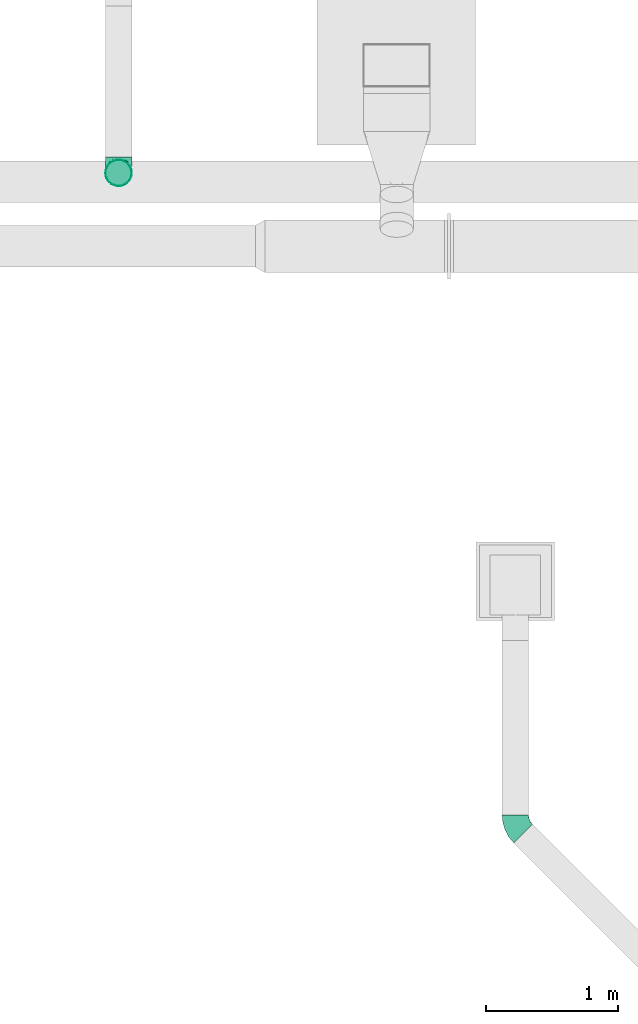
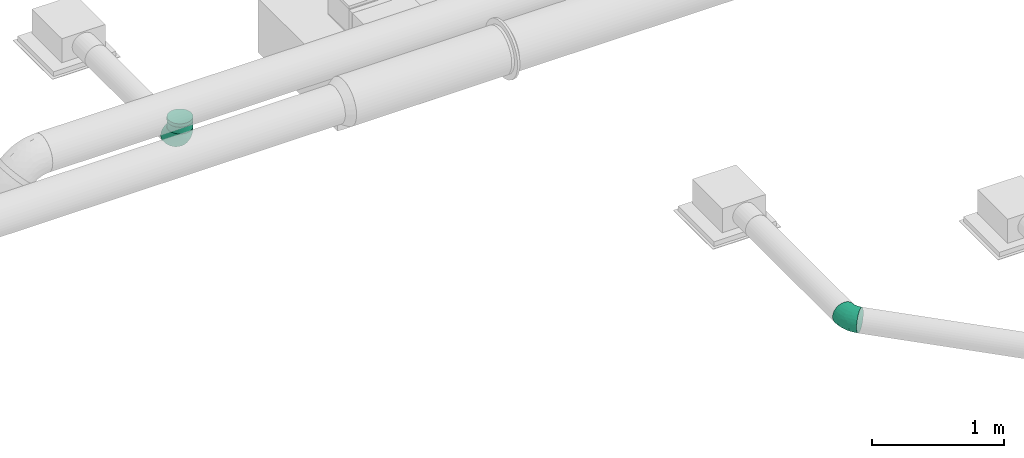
# One storey, part 15 of 36: 3 flow fittings, 1 flow segment.
"""IFC2X3 building model written with IfcOpenShell, lengths in millimetres."""

from ifc_helpers import new_model, entity, si_unit, converted_unit, derived_unit, direction, frame, origin_with_axes, origin_2d_with_axis, place, context, subcontext, project, spatial, hollow_circle, extrude, open_shell, surface_model, source, transform, mapped, type_object, element, save


model = new_model("IFC2X3")

# Units and contexts
model_context = context("Model", 3, precision=0.01, world=frame((0.0, 4.29681676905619e-09, 0.0)), true_north=direction((4.01073788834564e-13, 1.0)))
plan_context = context("Plan", 3, precision=0.01, world=frame((0.0, 4.29681676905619e-09, 0.0)), true_north=direction((4.01073788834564e-13, 1.0)))
body_context = subcontext(model_context, "Body", "Model", "MODEL_VIEW")
ifc_project = project(units=[converted_unit("PLANEANGLEUNIT", "DEGREE", entity("IfcPositiveLengthMeasure", 0.0174532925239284), si_unit("PLANEANGLEUNIT", "RADIAN"), dimensions=[0, 0, 0, 0, 0, 0, 0]), si_unit("AREAUNIT", "SQUARE_METRE"), si_unit("LENGTHUNIT", "METRE", prefix="MILLI"), si_unit("MASSUNIT", "GRAM", prefix="KILO"), si_unit("POWERUNIT", "WATT"), si_unit("PRESSUREUNIT", "PASCAL"), si_unit("FORCEUNIT", "NEWTON", prefix="KILO"), si_unit("ELECTRICCURRENTUNIT", "AMPERE"), si_unit("THERMODYNAMICTEMPERATUREUNIT", "DEGREE_CELSIUS"), si_unit("TIMEUNIT", "SECOND"), si_unit("VOLUMEUNIT", "CUBIC_METRE"), derived_unit("LINEARVELOCITYUNIT", [(si_unit("LENGTHUNIT", "METRE"), 1), (si_unit("TIMEUNIT", "SECOND"), -1)]), derived_unit("VOLUMETRICFLOWRATEUNIT", [(si_unit("VOLUMEUNIT", "CUBIC_METRE"), 1), (si_unit("TIMEUNIT", "SECOND"), -1)]), derived_unit("THERMALTRANSMITTANCEUNIT", [(si_unit("POWERUNIT", "WATT"), 1), (si_unit("THERMODYNAMICTEMPERATUREUNIT", "KELVIN"), -1), (si_unit("AREAUNIT", "SQUARE_METRE"), -1)])], contexts=[model_context, plan_context])

# Site, building, storey
site_placement = place(None, frame((0.0, -4.29681676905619e-09, 0.0), z_axis=(0.0, 0.0, 1.0), x_axis=(1.0, 0.0, 0.0)))
site = spatial("IfcSite", under=ifc_project, at=site_placement, CompositionType="ELEMENT")
building_placement = place(site_placement, frame((0.0, 4.29681676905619e-09, 0.0), z_axis=(0.0, 0.0, 1.0), x_axis=(1.0, 0.0, 0.0)))
building = spatial("IfcBuilding", under=site, at=building_placement, Name="mc-building", CompositionType="ELEMENT")
storey_placement = place(building_placement, frame((0.0, 0.0, 204000.0), z_axis=(0.0, 0.0, 1.0), x_axis=(1.0, 0.0, 0.0)))
storey = spatial("IfcBuildingStorey", under=building, at=storey_placement, Name="Nivå D", CompositionType="ELEMENT", Elevation=204000.0)

# Flow fittings
duct_fitting_type_1 = type_object("IfcDuctFittingType", Name="magicirc_elbow_full_radius_001", PredefinedType="BEND")
shared_shape_1 = source(origin_with_axes(), body_context, "Body", "SurfaceModel", [
    surface_model("IfcShellBasedSurfaceModel", [(-82.84271, 25.8819, -96.59259), (-82.84271, 0.0, -100.0), (-82.84271, 96.59259, -25.8819), (-82.84271, 50.0, -86.60254), (-82.84271, 86.60254, -50.0), (-82.84271, 70.71068, -70.71068), (-82.84271, -70.71068, -70.71068), (-82.84271, -50.0, -86.60254), (-82.84271, -25.8819, -96.59259), (-82.84271, -86.60254, -50.0), (-82.84271, -96.59259, -25.8819), (-82.84271, -50.0, 86.60254), (-82.84271, -100.0, 0.0), (-82.84271, -96.59259, 25.8819), (-82.84271, 96.59259, 25.8819), (-82.84271, 100.0, 0.0), (-82.84271, 25.8819, 96.59259), (-82.84271, 86.60254, 50.0), (-82.84271, 70.71068, 70.71068), (-82.84271, 50.0, 86.60254), (-82.84271, -86.60254, 50.0), (-82.84271, -70.71068, 70.71068), (-82.84271, -25.8819, 96.59259), (-82.84271, 0.0, 100.0), (58.57864, 58.57864, -100.0), (40.27737, 76.87991, -96.59259), (23.22331, 93.93398, -86.60254), (-2.6586, 119.81589, -50.0), (108.57865, 8.57864, -70.71068), (8.57864, 108.57865, -70.71068), (126.87991, -9.72263, 25.8819), (126.87991, -9.72263, -25.8819), (76.87991, 40.27737, -96.59259), (93.93398, 23.22331, -86.60254), (119.81589, -2.6586, -50.0), (129.28932, -12.13203, 0.0), (-9.72263, 126.87991, -25.8819), (-12.13203, 129.28932, 0.0), (-9.72263, 126.87991, 25.8819), (-2.6586, 119.81589, 50.0), (23.22331, 93.93398, 86.60254), (40.27737, 76.87991, 96.59259), (8.57864, 108.57865, 70.71068), (93.93398, 23.22331, 86.60254), (108.57865, 8.57864, 70.71068), (119.81589, -2.6586, 50.0), (76.87991, 40.27737, 96.59259), (58.57864, 58.57864, 100.0), (-57.29099, -79.42021, 59.21052), (-24.31562, -94.23558, 0.0), (-43.9725, -96.06555, 16.63742), (-58.00304, -97.5535, 0.0), (-22.62975, -75.75, 56.8801), (-39.16383, -90.45398, 34.87961), (-29.30132, -36.36549, 90.58787), (-39.70312, -60.08226, 77.13943), (19.49388, -47.06239, 73.85634), (10.84026, 65.00947, 93.41562), (1.46492, -3.53662, 97.91653), (-43.12593, -12.7573, 98.6406), (-38.26827, 14.32746, 99.58947), (-57.69239, 93.63486, 42.10905), (-35.4631, 85.6155, 64.76816), (-29.65962, 102.0198, 46.52765), (-12.25866, 100.52723, 62.54187), (-62.4153, 79.75166, 62.54187), (-46.49193, 62.66416, 81.50801), (-6.40302, -88.25261, 18.80636), (-18.73869, 45.23919, 94.57549), (-53.63386, 38.30341, 93.41562), (91.65364, -36.26761, 34.87961), (-43.25494, 104.42667, 26.03225), (-56.96081, 103.40741, 0.0), (39.51541, 21.47386, 98.6406), (-32.84271, 113.39746, 0.0), (19.7138, -75.88259, 33.1995), (26.23125, -61.80978, 54.83928), (46.43345, -4.99513, 90.58787), (98.51157, -37.21493, 16.69099), (71.15919, -55.23259, 19.42915), (-10.03396, 78.1744, 81.40791), (96.66942, -15.64772, 59.21052), (16.9287, 37.1908, 99.58947), (56.23324, -57.15976, 38.34032), (31.96232, -77.16386, 0.0), (70.55892, -14.41023, 77.13943), (83.82836, -49.44088, 0.0), (106.55884, -30.78646, 0.0), (69.56499, -37.56169, 56.8801), (9.88078, -23.85433, 90.61382), (-11.68618, 28.21294, 99.00678), (57.89534, -63.30237, 0.0), (3.82335, -85.69972, 0.0), (82.71793, -27.62774, -57.98988), (55.71052, 2.24508, -90.99936), (32.01348, 15.60322, -98.50234), (-46.22996, 82.51933, -63.86908), (-42.69185, 39.65342, -93.78543), (-8.72296, 21.05909, -99.80036), (-48.44601, 13.11192, -99.50146), (-43.25495, 104.42667, -26.03225), (-58.37356, 61.05095, -80.80392), (-27.86885, 67.28134, -82.61409), (2.14849, 58.2269, -93.78543), (-36.62535, 98.23487, -47.06584), (-26.19472, -88.59033, -33.84745), (109.99508, -27.9664, 0.0), (-27.06178, -58.48887, -76.46967), (7.51001, -27.94606, -89.20181), (24.24205, -38.81302, -78.67846), (-39.42854, -78.07759, -58.02175), (-40.9808, -37.80578, -90.99936), (-33.67009, -11.60381, -98.50234), (16.54926, -66.14947, -54.09942), (27.48789, -74.57861, -28.28654), (39.90412, -47.07461, -65.1263), (54.0194, -52.73285, -48.57265), (-17.13985, 96.75999, -63.04113), (-7.90978, 86.16249, -77.07496), (24.98497, 43.52803, -99.50146), (81.16529, -44.12035, -33.84745), (57.56574, -24.35182, -76.27755), (-0.71706, 1.73113, -98.92776), (54.51768, -60.62886, -32.38632)], [open_shell([[[0, 1, 2]], [[3, 0, 2]], [[2, 4, 5]], [[3, 2, 5]], [[6, 2, 1]], [[7, 6, 8]], [[6, 1, 8]], [[9, 10, 6]], [[11, 6, 10]], [[10, 12, 13]], [[2, 6, 11]], [[14, 15, 16]], [[17, 14, 18]], [[14, 16, 19]], [[18, 14, 19]], [[11, 16, 15]], [[20, 21, 13]], [[11, 13, 21]], [[10, 13, 11]], [[11, 22, 16]], [[22, 23, 16]], [[15, 2, 11]], [[24, 25, 26]], [[24, 26, 27]], [[24, 27, 28]], [[27, 26, 29]], [[30, 31, 27]], [[32, 28, 33]], [[32, 24, 28]], [[28, 31, 34]], [[27, 31, 28]], [[31, 30, 35]], [[30, 27, 36]], [[37, 38, 39]], [[30, 37, 39]], [[40, 41, 39]], [[40, 39, 42]], [[43, 39, 41]], [[30, 44, 45]], [[44, 30, 43]], [[41, 46, 43]], [[43, 30, 39]], [[47, 46, 41]], [[37, 30, 36]], [[21, 20, 48]], [[49, 50, 51]], [[52, 48, 53]], [[22, 11, 54]], [[11, 55, 54]], [[54, 55, 56]], [[41, 40, 57]], [[58, 59, 54]], [[59, 23, 22]], [[16, 23, 60]], [[17, 61, 14]], [[62, 63, 61]], [[42, 39, 64]], [[62, 65, 66]], [[53, 50, 67]], [[65, 17, 18]], [[68, 69, 60]], [[53, 20, 13]], [[45, 70, 30]], [[14, 71, 72]], [[46, 47, 73]], [[72, 15, 14]], [[74, 71, 38]], [[11, 21, 55]], [[16, 69, 19]], [[52, 75, 76]], [[53, 75, 52]], [[18, 19, 66]], [[77, 46, 73]], [[78, 70, 79]], [[68, 57, 80]], [[77, 43, 46]], [[45, 44, 81]], [[41, 57, 82]], [[75, 83, 76]], [[45, 81, 70]], [[67, 84, 75]], [[77, 85, 43]], [[86, 78, 79]], [[30, 78, 87]], [[83, 70, 88]], [[13, 51, 50]], [[85, 56, 88]], [[72, 71, 74]], [[44, 43, 85]], [[37, 74, 38]], [[54, 89, 58]], [[38, 71, 63]], [[73, 82, 58]], [[42, 80, 40]], [[90, 58, 82]], [[63, 62, 64]], [[60, 90, 68]], [[62, 66, 80]], [[41, 82, 47]], [[59, 60, 23]], [[69, 66, 19]], [[70, 83, 79]], [[48, 55, 21]], [[89, 56, 77]], [[56, 55, 52]], [[56, 85, 77]], [[81, 85, 88]], [[80, 42, 64]], [[68, 80, 66]], [[54, 59, 22]], [[60, 59, 58]], [[82, 73, 47]], [[77, 73, 58]], [[60, 69, 16]], [[66, 69, 68]], [[80, 57, 40]], [[82, 57, 68]], [[76, 88, 56]], [[13, 12, 51]], [[88, 76, 83]], [[52, 76, 56]], [[75, 79, 83]], [[79, 84, 91]], [[87, 35, 30]], [[30, 70, 78]], [[78, 86, 87]], [[84, 79, 75]], [[91, 86, 79]], [[67, 50, 49]], [[13, 50, 53]], [[67, 49, 92]], [[53, 67, 75]], [[38, 63, 39]], [[61, 63, 71]], [[14, 61, 71]], [[61, 17, 65]], [[66, 65, 18]], [[61, 65, 62]], [[63, 64, 39]], [[80, 64, 62]], [[53, 48, 20]], [[55, 48, 52]], [[85, 81, 44]], [[70, 81, 88]], [[56, 89, 54]], [[77, 58, 89]], [[58, 90, 60]], [[82, 68, 90]], [[84, 67, 92]], [[34, 93, 28]], [[32, 94, 95]], [[96, 5, 4]], [[3, 97, 0]], [[15, 72, 2]], [[98, 99, 97]], [[2, 72, 100]], [[24, 32, 95]], [[101, 96, 102]], [[26, 25, 103]], [[2, 100, 104]], [[99, 1, 0]], [[9, 105, 10]], [[32, 33, 94]], [[105, 51, 10]], [[102, 103, 97]], [[31, 35, 106]], [[4, 2, 104]], [[6, 7, 107]], [[107, 108, 109]], [[6, 110, 9]], [[8, 111, 7]], [[8, 1, 112]], [[105, 113, 114]], [[115, 93, 116]], [[29, 117, 27]], [[100, 72, 74]], [[113, 110, 107]], [[74, 37, 36]], [[111, 108, 107]], [[117, 104, 27]], [[104, 36, 27]], [[102, 96, 118]], [[117, 118, 96]], [[3, 5, 101]], [[112, 111, 8]], [[119, 25, 24]], [[101, 97, 3]], [[1, 99, 112]], [[102, 118, 103]], [[93, 34, 120]], [[119, 95, 98]], [[95, 94, 108]], [[110, 6, 107]], [[115, 109, 121]], [[113, 116, 114]], [[92, 105, 114]], [[121, 33, 28]], [[120, 31, 106]], [[110, 113, 105]], [[120, 106, 86]], [[119, 103, 25]], [[95, 122, 98]], [[31, 120, 34]], [[91, 114, 123]], [[122, 108, 112]], [[116, 93, 120]], [[100, 74, 36]], [[121, 28, 93]], [[98, 97, 103]], [[105, 9, 110]], [[33, 121, 94]], [[94, 121, 109]], [[108, 111, 112]], [[107, 7, 111]], [[97, 99, 0]], [[112, 99, 98]], [[95, 119, 24]], [[103, 119, 98]], [[117, 29, 118]], [[104, 117, 96]], [[4, 104, 96]], [[104, 100, 36]], [[29, 26, 118]], [[103, 118, 26]], [[84, 114, 91]], [[115, 116, 113]], [[96, 101, 5]], [[49, 105, 92]], [[109, 113, 107]], [[93, 115, 121]], [[109, 115, 113]], [[94, 109, 108]], [[120, 123, 116]], [[86, 91, 120]], [[97, 101, 102]], [[51, 105, 49]], [[51, 12, 10]], [[108, 122, 95]], [[112, 98, 122]], [[114, 84, 92]], [[91, 123, 120]], [[114, 116, 123]]])]),
])
flow_fitting_1_placement = place(storey_placement, frame((523896.54715, 409350.35076, 2868.32430000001), z_axis=(0.0, 0.0, 1.0), x_axis=(0.0, -1.0, 0.0)))
element("IfcFlowFitting", 1, at=flow_fitting_1_placement, inside=storey, type_object=duct_fitting_type_1, Name="magicirc_elbow_full_radius_001", context=body_context, shape_type="MappedRepresentation", body=[
    mapped(shared_shape_1, transform((0.0, 0.0, 0.0), scale=1.0)),
])
duct_fitting_type_2 = type_object("IfcDuctFittingType", Name="magicirc_elbow_short_001", PredefinedType="BEND")
shared_shape_2 = source(origin_with_axes(), body_context, "Body", "SurfaceModel", [
    surface_model("IfcShellBasedSurfaceModel", [(-120.0, 50.0, -86.60254), (-120.0, 25.8819, -96.59259), (-120.0, 70.71068, -70.71068), (-120.0, 96.59259, -25.8819), (-120.0, 86.60254, -50.0), (-120.0, -50.0, -86.60254), (-120.0, -70.71068, -70.71068), (-120.0, -25.8819, -96.59259), (-120.0, 0.0, -100.0), (-120.0, -96.59259, -25.8819), (-120.0, -100.0, 0.0), (-120.0, -86.60254, -50.0), (-120.0, 96.59259, 25.8819), (-120.0, -70.71068, 70.71068), (-120.0, -50.0, 86.60254), (-120.0, -86.60254, 50.0), (-120.0, -96.59259, 25.8819), (-120.0, -25.8819, 96.59259), (-120.0, 0.0, 100.0), (-120.0, 25.8819, 96.59259), (-25.8819, 120.0, -96.59259), (70.71068, 120.0, -70.71068), (0.0, 120.0, -100.0), (-70.71068, 120.0, -70.71068), (-50.0, 120.0, -86.60254), (-86.60254, 120.0, -50.0), (-96.59259, 120.0, -25.8819), (25.8819, 120.0, -96.59259), (50.0, 120.0, -86.60254), (86.60254, 120.0, -50.0), (100.0, 120.0, 0.0), (96.59259, 120.0, -25.8819), (-96.59259, 120.0, 25.8819), (86.60254, 120.0, 50.0), (50.0, 120.0, 86.60254), (70.71068, 120.0, 70.71068), (96.59259, 120.0, 25.8819), (-25.8819, 120.0, 96.59259), (0.0, 120.0, 100.0), (25.8819, 120.0, 96.59259), (-100.0, 120.0, 0.0), (-50.0, 120.0, 86.60254), (-70.71068, 120.0, 70.71068), (-57.47657, 95.22229, 84.95805), (-85.33946, -92.96309, 28.79275), (-95.20929, -97.20676, 0.0), (-84.48473, -65.01559, 72.95431), (-52.96075, -70.60035, 57.16979), (-58.29219, -58.77958, 72.2572), (-71.0454, -94.48414, 0.0), (-33.46621, 86.30074, 96.24781), (-7.45333, 88.76819, 99.94878), (-26.53059, -25.83103, 84.66541), (5.23459, -24.1841, 70.44192), (-1.23107, 1.23105, 87.74618), (-103.71213, 103.71213, 24.44784), (-95.28171, 98.70414, 48.64074), (-78.83961, -43.63421, 87.3226), (48.45058, -8.12007, 40.03254), (39.62941, -27.51041, 22.8702), (55.13075, -9.11298, 21.86769), (27.15427, -27.15428, 47.29752), (-0.9865, -46.35038, 53.41318), (-49.25997, -85.42957, 23.21428), (-69.41482, -80.94006, 48.93369), (34.63169, 2.36241, 66.9375), (-59.03727, -17.74459, 95.19283), (-92.36993, -18.34983, 97.75252), (-98.24586, -81.70799, 55.95793), (-87.21661, 7.38787, 99.96319), (-79.82304, 33.86298, 96.83649), (-103.25245, 34.36931, 94.48617), (-49.8635, 16.95363, 99.89181), (-120.0, 50.0, 86.60254), (-93.99414, 57.52782, 85.21417), (-13.524, 31.6217, 98.29715), (-30.34675, -2.85909, 94.71053), (-120.0, 70.71068, 70.71068), (-102.74619, 77.59979, 67.01377), (-120.0, 86.60254, 50.0), (-105.2102, 88.7141, 52.03645), (-120.0, 100.0, 0.0), (94.48414, 71.0454, 0.0), (92.96309, 85.33946, 28.79275), (85.42957, 49.25997, 23.21428), (18.34983, 92.36993, 97.75252), (-37.44754, -44.66633, 76.66985), (-66.8783, 56.54931, 92.80405), (65.01559, 84.48473, 72.95431), (43.6342, 78.83961, 87.3226), (37.67702, 38.38344, 81.78155), (58.58205, 33.30331, 61.93165), (58.77958, 58.29217, 72.2572), (14.52663, -47.57763, 31.54394), (81.70799, 98.24586, 55.95793), (97.20676, 95.20929, 0.0), (75.2275, 38.8764, 40.54554), (80.94006, 69.41482, 48.93369), (-19.32309, 64.21329, 99.87988), (-105.85786, 105.85786, 0.0), (17.74458, 59.03726, 95.19283), (70.60036, 52.96074, 57.16978), (-82.76473, 82.76473, 73.92657), (-77.59979, 102.74619, 67.01377), (-38.87641, -75.2275, 40.54555), (-40.86148, 50.04827, 98.96107), (-86.60254, 120.0, 50.0), (-25.82378, -76.70765, 19.45345), (-49.50418, 71.23352, 93.94065), (-57.3172, 35.12243, 98.9453), (65.10804, 3.68891, 0.0), (65.80674, 11.30259, 30.40508), (15.01777, 28.10412, 90.12797), (-0.1518, 65.0789, 99.29745), (-47.79548, -86.34864, 0.0), (-67.45496, 75.91085, 85.7741), (-3.68891, -65.10804, 0.0), (17.16776, -52.00293, 0.0), (-11.30259, -65.80674, 30.40508), (-24.54558, -78.21315, 0.0), (76.76895, 27.91333, 23.28633), (86.34864, 47.79548, 0.0), (58.40844, 13.74403, 48.13414), (52.00293, -17.16776, 0.0), (20.33542, 8.19535, 80.42602), (-51.11653, -33.50476, 87.58865), (-33.30333, -58.58206, 61.93166), (-17.26255, -60.80757, 47.57586), (78.21315, 24.54558, 0.0), (34.58534, -34.58534, 0.0), (-86.30074, 33.4662, -96.24781), (-34.36932, 103.25245, -94.48617), (-11.30259, -65.80673, -30.40508), (9.11298, -55.13075, -21.86769), (-98.24586, -81.70799, -55.95793), (-88.7682, 7.45333, -99.94878), (43.63421, 78.83961, -87.3226), (-98.70414, 95.28171, -48.64074), (-82.76473, 82.76473, -73.92657), (-102.74619, 77.59979, -67.01377), (85.42957, 49.25997, -23.21428), (75.22749, 38.8764, -40.54555), (80.94006, 69.41482, -48.93369), (27.15427, -27.15428, -47.29753), (47.57763, -14.52663, -31.54396), (27.51041, -39.62941, -22.8702), (-71.23352, 49.50417, -93.94066), (-56.54932, 66.8783, -92.80405), (-50.04827, 40.86148, -98.96107), (-33.86298, 79.82303, -96.83649), (-57.52782, 93.99414, -85.21417), (-16.95364, 49.8635, -99.89182), (-31.6217, 13.52399, -98.29715), (-85.33946, -92.96309, -28.79275), (24.18408, -5.23461, -70.44192), (46.35038, 0.9865, -53.41318), (65.01559, 84.48472, -72.95431), (-84.48473, -65.01559, -72.95431), (-78.83961, -43.63421, -87.3226), (-103.71213, 103.71213, -24.44784), (-95.22229, 57.47657, -84.95805), (-49.25997, -85.42957, -23.21428), (-92.36993, -18.34984, -97.75252), (-38.87641, -75.2275, -40.54555), (-69.41482, -80.94006, -48.93369), (-88.7141, 105.2102, -52.03645), (-7.38786, 87.21659, -99.96319), (17.74459, 59.03726, -95.19283), (-33.30333, -58.58206, -61.93166), (-52.96075, -70.60035, -57.16979), (-77.59979, 102.74619, -67.01377), (-38.38346, -37.67703, -81.78155), (-2.36242, -34.6317, -66.93751), (18.34983, 92.36993, -97.75252), (81.70799, 98.24586, -55.95793), (8.12006, -48.45058, -40.03254), (-1.23106, 1.23105, -87.74618), (25.83103, 26.53058, -84.6654), (92.96309, 85.33946, -28.79275), (76.70765, 25.82378, -19.45345), (-59.03727, -17.74459, -95.19283), (2.8591, 30.34673, -94.71053), (-64.21329, 19.32309, -99.87988), (58.77958, 58.29219, -72.2572), (70.60035, 52.96075, -57.16979), (-58.29219, -58.77958, -72.2572), (-35.12244, 57.3172, -98.9453), (44.66633, 37.44754, -76.66985), (-28.10413, -15.01778, -90.12797), (-65.07891, 0.1518, -99.29745), (-75.91086, 67.45496, -85.7741), (-27.91333, -76.76895, -23.28633), (-13.74403, -58.40844, -48.13415), (65.80673, 11.30258, -30.40508), (-8.19536, -20.33543, -80.42602), (33.50476, 51.11653, -87.58865), (58.58205, 33.30333, -61.93166), (60.80757, 17.26255, -47.57586)], [open_shell([[[0, 1, 2]], [[3, 4, 2]], [[5, 6, 7]], [[6, 8, 7]], [[9, 10, 11]], [[11, 10, 3]], [[10, 12, 3]], [[13, 14, 15]], [[16, 15, 14]], [[17, 18, 19]], [[20, 21, 22]], [[23, 20, 24]], [[23, 25, 26]], [[27, 21, 28]], [[27, 22, 21]], [[29, 30, 31]], [[21, 20, 29]], [[26, 30, 29]], [[26, 32, 30]], [[33, 34, 35]], [[34, 33, 36]], [[37, 38, 39]], [[32, 26, 40]], [[41, 42, 43]], [[44, 16, 45]], [[44, 15, 16]], [[46, 47, 48]], [[45, 49, 44]], [[37, 50, 51]], [[52, 53, 54]], [[55, 56, 32]], [[14, 46, 57]], [[58, 59, 60]], [[61, 53, 62]], [[44, 63, 64]], [[14, 13, 46]], [[53, 61, 65]], [[57, 66, 67]], [[18, 17, 67]], [[68, 13, 15]], [[69, 70, 71]], [[70, 69, 72]], [[73, 71, 74]], [[75, 72, 76]], [[77, 78, 79]], [[80, 12, 79]], [[78, 80, 79]], [[81, 12, 55]], [[82, 83, 84]], [[73, 74, 77]], [[41, 43, 50]], [[39, 38, 85]], [[48, 86, 57]], [[17, 14, 57]], [[70, 87, 74]], [[88, 35, 34]], [[85, 89, 39]], [[55, 12, 80]], [[34, 39, 89]], [[90, 91, 92]], [[83, 36, 33]], [[61, 93, 59]], [[89, 88, 34]], [[35, 94, 33]], [[83, 95, 36]], [[96, 84, 97]], [[19, 71, 73]], [[98, 51, 50]], [[99, 81, 55]], [[90, 89, 100]], [[99, 55, 40]], [[91, 96, 101]], [[102, 103, 56]], [[63, 104, 64]], [[105, 72, 75]], [[56, 106, 32]], [[42, 106, 103]], [[19, 18, 69]], [[107, 104, 63]], [[108, 87, 105]], [[50, 37, 41]], [[51, 38, 37]], [[91, 90, 65]], [[109, 72, 105]], [[110, 111, 60]], [[69, 66, 72]], [[67, 69, 18]], [[76, 66, 52]], [[70, 109, 87]], [[78, 74, 102]], [[112, 75, 54]], [[113, 51, 98]], [[63, 49, 114]], [[68, 44, 64]], [[94, 83, 33]], [[84, 83, 97]], [[103, 43, 42]], [[115, 87, 108]], [[108, 98, 50]], [[51, 113, 85]], [[101, 92, 91]], [[94, 88, 97]], [[68, 46, 13]], [[47, 64, 104]], [[116, 117, 118]], [[63, 119, 107]], [[107, 116, 118]], [[62, 93, 61]], [[96, 111, 120]], [[84, 121, 82]], [[65, 58, 122]], [[60, 123, 110]], [[100, 112, 90]], [[61, 59, 58]], [[124, 90, 112]], [[65, 124, 53]], [[54, 76, 52]], [[53, 86, 62]], [[52, 125, 86]], [[53, 52, 86]], [[98, 108, 105]], [[74, 87, 115]], [[51, 85, 38]], [[89, 85, 100]], [[57, 67, 17]], [[69, 67, 66]], [[56, 103, 106]], [[103, 102, 115]], [[74, 78, 77]], [[80, 102, 56]], [[126, 127, 62]], [[62, 127, 93]], [[84, 128, 121]], [[93, 129, 59]], [[110, 120, 111]], [[58, 60, 111]], [[122, 58, 111]], [[65, 61, 58]], [[75, 76, 54]], [[72, 66, 76]], [[105, 75, 98]], [[113, 75, 100]], [[50, 43, 108]], [[43, 103, 115]], [[43, 115, 108]], [[74, 115, 102]], [[127, 104, 118]], [[104, 127, 47]], [[48, 47, 126]], [[46, 64, 47]], [[86, 48, 126]], [[57, 46, 48]], [[86, 126, 62]], [[52, 66, 125]], [[66, 57, 125]], [[57, 86, 125]], [[101, 96, 97]], [[122, 96, 91]], [[97, 88, 101]], [[92, 101, 88]], [[88, 89, 92]], [[90, 92, 89]], [[96, 122, 111]], [[65, 122, 91]], [[75, 113, 98]], [[85, 113, 100]], [[59, 123, 60]], [[84, 96, 120]], [[75, 112, 100]], [[120, 110, 128]], [[124, 112, 54]], [[53, 124, 54]], [[90, 124, 65]], [[102, 80, 78]], [[80, 56, 55]], [[16, 10, 45]], [[95, 83, 82]], [[95, 30, 36]], [[40, 55, 32]], [[69, 71, 19]], [[74, 71, 70]], [[44, 68, 15]], [[46, 68, 64]], [[88, 94, 35]], [[83, 94, 97]], [[87, 109, 105]], [[70, 72, 109]], [[49, 63, 44]], [[114, 119, 63]], [[104, 107, 118]], [[107, 119, 116]], [[117, 93, 118]], [[127, 126, 47]], [[93, 127, 118]], [[129, 93, 117]], [[129, 123, 59]], [[128, 84, 120]], [[0, 130, 1]], [[20, 131, 24]], [[132, 133, 116]], [[6, 134, 11]], [[1, 135, 8]], [[27, 28, 136]], [[137, 138, 139]], [[140, 141, 142]], [[4, 139, 2]], [[143, 144, 145]], [[4, 3, 137]], [[146, 147, 148]], [[149, 147, 150]], [[148, 151, 152]], [[11, 153, 9]], [[143, 154, 155]], [[153, 45, 9]], [[28, 21, 156]], [[157, 5, 158]], [[159, 137, 3]], [[6, 5, 157]], [[5, 7, 158]], [[0, 2, 160]], [[31, 30, 95]], [[49, 153, 161]], [[7, 162, 158]], [[163, 161, 164]], [[165, 26, 25]], [[81, 99, 159]], [[166, 167, 151]], [[40, 26, 159]], [[168, 163, 169]], [[25, 170, 165]], [[20, 22, 166]], [[168, 171, 172]], [[23, 170, 25]], [[149, 131, 166]], [[160, 130, 0]], [[149, 166, 151]], [[136, 167, 173]], [[174, 21, 29]], [[23, 24, 150]], [[24, 131, 150]], [[27, 173, 22]], [[136, 28, 156]], [[154, 143, 172]], [[1, 130, 135]], [[133, 175, 145]], [[154, 176, 177]], [[7, 8, 162]], [[140, 142, 178]], [[179, 141, 140]], [[95, 82, 178]], [[31, 95, 178]], [[171, 158, 180]], [[152, 151, 181]], [[182, 135, 130]], [[183, 156, 184]], [[171, 168, 185]], [[178, 29, 31]], [[173, 166, 22]], [[159, 3, 81]], [[149, 151, 186]], [[183, 187, 136]], [[181, 167, 177]], [[149, 186, 147]], [[170, 150, 138]], [[188, 152, 176]], [[189, 135, 182]], [[134, 153, 11]], [[161, 153, 164]], [[140, 82, 121]], [[174, 178, 142]], [[139, 160, 2]], [[190, 147, 146]], [[146, 182, 130]], [[135, 189, 162]], [[169, 185, 168]], [[134, 157, 164]], [[174, 156, 21]], [[184, 142, 141]], [[163, 132, 191]], [[161, 114, 49]], [[172, 175, 192]], [[133, 117, 116]], [[110, 123, 193]], [[140, 128, 179]], [[179, 110, 193]], [[155, 144, 143]], [[180, 188, 171]], [[143, 145, 175]], [[194, 171, 188]], [[172, 194, 154]], [[176, 181, 177]], [[154, 187, 155]], [[177, 195, 187]], [[154, 177, 187]], [[182, 146, 148]], [[150, 147, 190]], [[135, 162, 8]], [[158, 162, 180]], [[136, 173, 27]], [[166, 173, 167]], [[137, 139, 4]], [[139, 138, 190]], [[150, 170, 23]], [[165, 138, 137]], [[196, 197, 155]], [[155, 197, 144]], [[197, 196, 184]], [[144, 129, 145]], [[116, 191, 132]], [[175, 133, 132]], [[192, 175, 132]], [[172, 143, 175]], [[152, 181, 176]], [[151, 167, 181]], [[148, 152, 182]], [[189, 152, 180]], [[130, 160, 146]], [[160, 139, 190]], [[160, 190, 146]], [[150, 190, 138]], [[169, 163, 164]], [[192, 163, 168]], [[164, 157, 169]], [[185, 169, 157]], [[157, 158, 185]], [[171, 185, 158]], [[197, 141, 193]], [[141, 197, 184]], [[183, 184, 196]], [[156, 142, 184]], [[187, 183, 196]], [[136, 156, 183]], [[187, 196, 155]], [[177, 167, 195]], [[167, 136, 195]], [[136, 187, 195]], [[163, 192, 132]], [[172, 192, 168]], [[152, 189, 182]], [[162, 189, 180]], [[145, 117, 133]], [[161, 163, 191]], [[152, 188, 180]], [[191, 116, 119]], [[194, 188, 176]], [[154, 194, 176]], [[171, 194, 172]], [[138, 165, 170]], [[165, 137, 159]], [[45, 153, 49]], [[45, 10, 9]], [[40, 159, 99]], [[159, 26, 165]], [[166, 131, 20]], [[150, 131, 149]], [[178, 174, 29]], [[156, 174, 142]], [[157, 134, 6]], [[153, 134, 164]], [[147, 186, 148]], [[161, 119, 114]], [[82, 140, 178]], [[121, 128, 140]], [[141, 179, 193]], [[179, 128, 110]], [[123, 144, 193]], [[144, 197, 193]], [[129, 144, 123]], [[129, 117, 145]], [[119, 161, 191]], [[8, 6, 1]], [[1, 3, 2]], [[3, 1, 11]], [[11, 1, 6]], [[19, 12, 10]], [[79, 12, 77]], [[12, 19, 73]], [[77, 12, 73]], [[17, 19, 10]], [[14, 17, 16]], [[16, 17, 10]], [[12, 81, 3]], [[23, 26, 20]], [[29, 20, 26]], [[32, 37, 30]], [[42, 32, 106]], [[41, 37, 32]], [[41, 32, 42]], [[30, 37, 39]], [[36, 39, 34]], [[30, 39, 36]], [[186, 151, 148]]])]),
])
flow_fitting_2_placement = place(storey_placement, frame((520896.54715, 414286.8494, 2580.0), z_axis=(-1.0, 0.0, 0.0), x_axis=(0.0, -1.0, 0.0)))
element("IfcFlowFitting", 2, at=flow_fitting_2_placement, inside=storey, type_object=duct_fitting_type_2, Name="magicirc_elbow_short_001", context=body_context, shape_type="MappedRepresentation", body=[
    mapped(shared_shape_2, transform((0.0, 0.0, 0.0), scale=1.0)),
])
duct_fitting_type_3 = type_object("IfcDuctFittingType", Name="magicirc_tapoutlet_001", PredefinedType="CONNECTOR")
shared_shape_3 = source(origin_with_axes(), body_context, "Body", "SurfaceModel", [
    surface_model("IfcShellBasedSurfaceModel", [(-6.096, 100.0, 0.0), (-6.096, 96.59259, -25.8819), (-6.096, 96.59259, 25.8819), (-6.096, -25.8819, -96.59259), (-6.096, -100.0, 0.0), (-6.096, 0.0, -100.0), (-6.096, -50.0, -86.60254), (-6.096, -70.71068, -70.71068), (-6.096, -86.60254, -50.0), (-6.096, 70.71068, -70.71068), (-6.096, 50.0, -86.60254), (-6.096, 25.8819, -96.59259), (-6.096, 86.60254, -50.0), (-6.096, -96.59259, -25.8819), (-6.096, -96.59259, 25.8819), (-6.096, -86.60254, 50.0), (-6.096, -70.71068, 70.71068), (-6.096, -25.8819, 96.59259), (-6.096, -50.0, 86.60254), (-6.096, 25.8819, 96.59259), (-6.096, 70.71068, 70.71068), (-6.096, 86.60254, 50.0), (-6.096, 50.0, 86.60254), (-6.096, 0.0, 100.0), (0.0, -25.8819, 96.59259), (0.0, 0.0, 100.0), (0.0, -50.0, 86.60254), (0.0, -70.71068, 70.71068), (0.0, -96.59259, 25.8819), (0.0, -86.60254, 50.0), (0.0, -100.0, 0.0), (0.0, -96.59259, -25.8819), (0.0, -86.60254, -50.0), (0.0, -70.71068, -70.71068), (0.0, 0.0, -100.0), (0.0, -25.8819, -96.59259), (0.0, -50.0, -86.60254), (0.0, 25.8819, -96.59259), (0.0, 50.0, -86.60254), (0.0, 70.71068, -70.71068), (0.0, 96.59259, -25.8819), (0.0, 86.60254, -50.0), (0.0, 100.0, 0.0), (0.0, 96.59259, 25.8819), (0.0, 86.60254, 50.0), (0.0, 70.71068, 70.71068), (0.0, 25.8819, 96.59259), (0.0, 50.0, 86.60254), (25.0, 0.0, -100.0), (25.0, 25.8819, -96.59259), (25.0, -25.8819, -96.59259), (25.0, -96.59259, 25.8819), (25.0, -50.0, -86.60254), (25.0, -86.60254, -50.0), (25.0, -70.71068, -70.71068), (25.0, 100.0, 0.0), (25.0, 96.59259, 25.8819), (25.0, 70.71068, -70.71068), (25.0, 50.0, -86.60254), (25.0, 96.59259, -25.8819), (25.0, 86.60254, -50.0), (25.0, -96.59259, -25.8819), (25.0, -86.60254, 50.0), (25.0, -70.71068, 70.71068), (25.0, -50.0, 86.60254), (25.0, -25.8819, 96.59259), (25.0, 0.0, 100.0), (25.0, 86.60254, 50.0), (25.0, 70.71068, 70.71068), (25.0, 25.8819, 96.59259), (25.0, 50.0, 86.60254), (25.0, -100.0, 0.0)], [open_shell([[[0, 1, 2]], [[3, 4, 5]], [[6, 4, 3]], [[4, 7, 8]], [[4, 6, 7]], [[9, 5, 2]], [[5, 10, 11]], [[5, 9, 10]], [[12, 2, 1]], [[2, 12, 9]], [[4, 8, 13]], [[14, 15, 5]], [[15, 16, 5]], [[17, 5, 18]], [[5, 16, 18]], [[5, 17, 19]], [[5, 20, 21]], [[2, 5, 21]], [[5, 22, 20]], [[19, 22, 5]], [[17, 23, 19]], [[14, 5, 4]], [[24, 25, 23]], [[26, 24, 17]], [[17, 24, 23]], [[16, 27, 18]], [[26, 17, 18]], [[26, 18, 27]], [[28, 29, 15]], [[30, 28, 14]], [[15, 29, 16]], [[28, 15, 14]], [[30, 14, 4]], [[27, 16, 29]], [[31, 30, 4]], [[32, 31, 13]], [[13, 31, 4]], [[7, 33, 8]], [[32, 13, 8]], [[32, 8, 33]], [[3, 34, 35]], [[6, 35, 36]], [[6, 36, 7]], [[34, 3, 5]], [[6, 3, 35]], [[33, 7, 36]], [[37, 34, 5]], [[38, 37, 11]], [[11, 37, 5]], [[9, 39, 10]], [[38, 11, 10]], [[38, 10, 39]], [[40, 41, 12]], [[42, 40, 1]], [[12, 41, 9]], [[40, 12, 1]], [[42, 1, 0]], [[39, 9, 41]], [[43, 42, 0]], [[44, 43, 2]], [[2, 43, 0]], [[20, 45, 21]], [[44, 2, 21]], [[44, 21, 45]], [[46, 47, 22]], [[25, 46, 19]], [[22, 47, 20]], [[46, 22, 19]], [[25, 19, 23]], [[45, 20, 47]], [[48, 49, 50]], [[50, 51, 52]], [[53, 54, 51]], [[51, 54, 52]], [[50, 55, 56]], [[57, 55, 58]], [[50, 49, 58]], [[59, 55, 60]], [[57, 60, 55]], [[58, 55, 50]], [[61, 53, 51]], [[62, 51, 50]], [[50, 63, 62]], [[64, 50, 65]], [[64, 63, 50]], [[66, 65, 50]], [[67, 68, 50]], [[50, 56, 67]], [[69, 66, 70]], [[50, 68, 70]], [[70, 66, 50]], [[71, 61, 51]], [[65, 66, 25]], [[64, 65, 24]], [[24, 65, 25]], [[27, 63, 26]], [[64, 24, 26]], [[64, 26, 63]], [[51, 62, 29]], [[71, 51, 28]], [[29, 62, 27]], [[51, 29, 28]], [[71, 28, 30]], [[63, 27, 62]], [[61, 71, 30]], [[53, 61, 31]], [[31, 61, 30]], [[33, 54, 32]], [[53, 31, 32]], [[53, 32, 54]], [[35, 48, 50]], [[36, 50, 52]], [[36, 52, 33]], [[48, 35, 34]], [[36, 35, 50]], [[54, 33, 52]], [[49, 48, 34]], [[58, 49, 37]], [[37, 49, 34]], [[39, 57, 38]], [[58, 37, 38]], [[58, 38, 57]], [[59, 60, 41]], [[55, 59, 40]], [[41, 60, 39]], [[59, 41, 40]], [[55, 40, 42]], [[57, 39, 60]], [[56, 55, 42]], [[67, 56, 43]], [[43, 56, 42]], [[45, 68, 44]], [[67, 43, 44]], [[67, 44, 68]], [[69, 70, 47]], [[66, 69, 46]], [[47, 70, 45]], [[69, 47, 46]], [[66, 46, 25]], [[68, 45, 70]], [[64, 62, 50]], [[63, 62, 64]], [[56, 67, 50]], [[66, 50, 70]]])]),
])
flow_fitting_3_placement = place(storey_placement, frame((520896.54715, 414286.8494, 2786.53833000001), z_axis=(0.0, 1.0, 0.0), x_axis=(0.0, 0.0, -1.0)))
element("IfcFlowFitting", 3, at=flow_fitting_3_placement, inside=storey, type_object=duct_fitting_type_3, Name="magicirc_tapoutlet_001", context=body_context, shape_type="MappedRepresentation", body=[
    mapped(shared_shape_3, transform((0.0, 0.0, 0.0), scale=1.0)),
])

# Flow segment
duct_segment_type = type_object("IfcDuctSegmentType", Name="KK001T - Spiro kanaler, Forsinket stål", PredefinedType="RIGIDSEGMENT")
shared_shape_4 = source(origin_with_axes(), body_context, "Body", "SweptSolid", [
    extrude(hollow_circle(Radius=100.0, WallThickness=2.0, at=origin_2d_with_axis()), frame((0.0, 0.0, 0.0), z_axis=(1.0, 0.0, 0.0), x_axis=(0.0, 1.0, 0.0)), (0.0, 0.0, 1.0), 61.5),
])
flow_segment_placement = place(storey_placement, frame((520896.54715, 414286.8494, 2700.0), z_axis=(0.0, 1.0, 0.0), x_axis=(0.0, 0.0, 1.0)))
element("IfcFlowSegment", 4, at=flow_segment_placement, inside=storey, type_object=duct_segment_type, Name="KK001T - Spiro kanaler, Forsinket stål", context=body_context, shape_type="MappedRepresentation", body=[
    mapped(shared_shape_4, transform((0.0, 0.0, 0.0), scale=1.0)),
])

save(model, "model.ifc")
